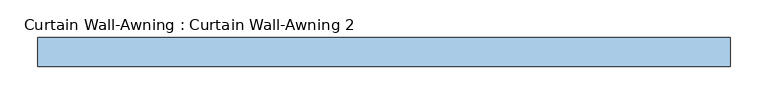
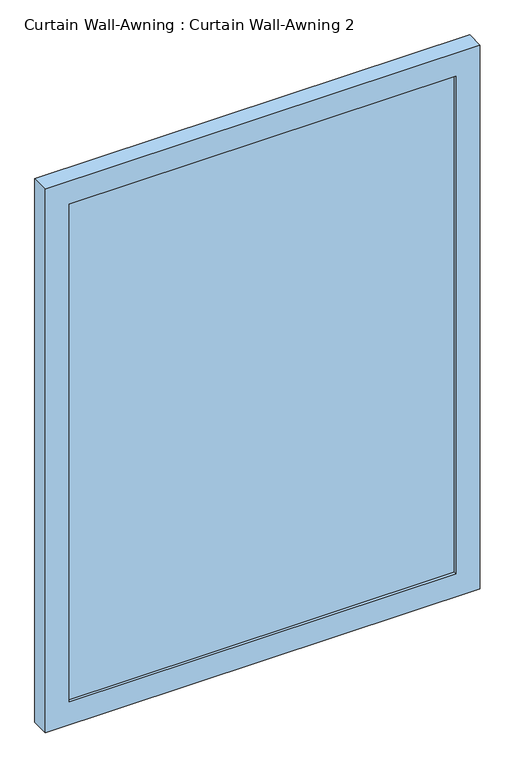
"""IFC4 building model written with IfcOpenShell, lengths in millimetres: window geometry, Curtain Wall-Awning : Curtain Wall-Awning 2."""

from ifc_helpers import new_model, si_unit, frame, origin, place, context, project, spatial, polyline, outline, extrude, source, transform, mapped, element, save


def curtain_wall_awning_curtain_wall_awning_2_be5c5add(model_context):
    return source(origin(), model_context, "Body", "SweptSolid", [
        extrude(outline(polyline([(407.5744025, 19.05), (407.5744025, 6.35), (-407.5744025, 6.35), (-407.5744025, 19.05), (407.5744025, 19.05)])), frame((0.0, 0.0, 50.8), z_axis=(0.0, 0.0, 1.0), x_axis=(1.0, 0.0, 0.0)), (0.0, 0.0, 1.0), 1109.5379274),
        extrude(outline(polyline([(1211.1379274, -458.3744025), (0.0, -458.3744025), (0.0, 458.3744025), (1211.1379274, 458.3744025), (1211.1379274, -458.3744025)]), holes=[polyline([(1160.3379274, -407.5744025), (1160.3379274, 407.5744025), (50.8, 407.5744025), (50.8, -407.5744025), (1160.3379274, -407.5744025)])]), frame((0.0, 0.0, 0.0), z_axis=(0.0, 1.0, 0.0), x_axis=(0.0, 0.0, 1.0)), (0.0, 0.0, 1.0), 38.1),
    ])


if __name__ == "__main__":
    model = new_model("IFC4")
    model_context = context("Model", 3, world=origin())
    ifc_project = project(units=[si_unit("LENGTHUNIT", "METRE", prefix="MILLI")], contexts=[model_context])
    site = spatial("IfcSite", under=ifc_project)
    building = spatial("IfcBuilding", under=site)
    placement = place(None, origin())
    curtain_wall_awning_curtain_wall_awning_2_shape = curtain_wall_awning_curtain_wall_awning_2_be5c5add(model_context)
    element("IfcWindow", 1, ObjectType="Curtain Wall-Awning : Curtain Wall-Awning 2", at=placement, inside=building, context=model_context, shape_type="MappedRepresentation", body=[
        mapped(curtain_wall_awning_curtain_wall_awning_2_shape, transform((0.0, 0.0, 0.0), x_axis=(1.0, 0.0, 0.0), y_axis=(0.0, 1.0, 0.0), z_axis=(0.0, 0.0, 1.0))),
    ])
    save(model, "model.ifc")
